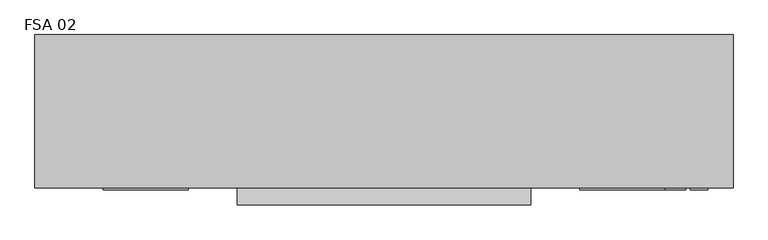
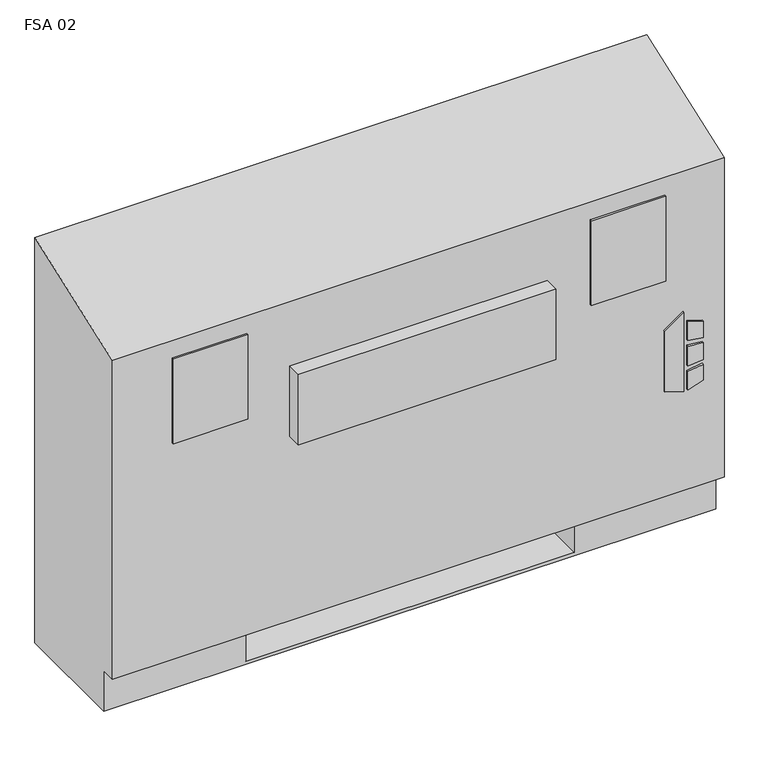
"""IFC4 building model written with IfcOpenShell, lengths in millimetres: proxy geometry, Vertical_Fan_Coil_Unit_-_FSA_-_IEC_-_4-Pipe_FS-FR_RH_2022 : FSA 02."""

from ifc_helpers import new_model, si_unit, point, frame, frame_2d, origin, place, context, project, spatial, polyline, circle_curve, trimmed, segment, composite_curve, outline, extrude, source, transform, mapped, element, save
from ifc_brep_helpers import plane_surface, revolved_surface, advanced_brep


def fsa_02_a3f02086(model_context):
    return source(origin(), model_context, "Body", "SolidModel", [
        extrude(outline(polyline([(263.9480703, 569.9868862), (254.0, 602.1602728), (396.1709244, 602.1602728), (373.1489183, 569.9868862), (263.9480703, 569.9868862)])), frame((0.0, 12.7, 0.0), z_axis=(0.0, 1.0, 0.0), x_axis=(0.0, 0.0, 1.0)), (0.0, 0.0, 1.0), 3.175),
        extrude(outline(polyline([(342.9473557, 608.9186058), (339.7449632, 635.0), (368.9738042, 635.0), (377.0382193, 608.9186058), (342.9473557, 608.9186058)])), frame((0.0, 12.7, 0.0), z_axis=(0.0, 1.0, 0.0), x_axis=(0.0, 0.0, 1.0)), (0.0, 0.0, 1.0), 3.175),
        extrude(outline(polyline([(291.0838288, 635.0), (287.4183279, 608.9186058), (254.0, 608.9186058), (262.6342372, 635.0), (291.0838288, 635.0)])), frame((0.0, 12.7, 0.0), z_axis=(0.0, 1.0, 0.0), x_axis=(0.0, 0.0, 1.0)), (0.0, 0.0, 1.0), 3.175),
        extrude(outline(polyline([(330.3989903, 635.0), (332.6808166, 608.9186058), (296.7432681, 608.9186058), (299.4845331, 635.0), (330.3989903, 635.0)])), frame((0.0, 12.7, 0.0), z_axis=(0.0, 1.0, 0.0), x_axis=(0.0, 0.0, 1.0)), (0.0, 0.0, 1.0), 3.175),
        extrude(outline(polyline([(-247.65, 81.534), (-247.65, 223.266), (-127.0, 223.266), (-127.0, 81.534), (-247.65, 81.534)])), frame((0.0, 0.0, 327.025), z_axis=(0.0, 0.0, 1.0), x_axis=(1.0, 0.0, 0.0)), (0.0, 0.0, 1.0), 260.35),
        extrude(outline(polyline([(-139.7, 12.7), (-266.7, 12.7), (-266.7, 15.875), (-139.7, 15.875), (-139.7, 12.7)])), frame((0.0, 0.0, 463.55), z_axis=(0.0, 0.0, 1.0), x_axis=(1.0, 0.0, 0.0)), (0.0, 0.0, 1.0), 152.4),
        extrude(outline(polyline([(571.5, 12.7), (444.5, 12.7), (444.5, 15.875), (571.5, 15.875), (571.5, 12.7)])), frame((0.0, 0.0, 463.55), z_axis=(0.0, 0.0, 1.0), x_axis=(1.0, 0.0, 0.0)), (0.0, 0.0, 1.0), 152.4),
        extrude(outline(composite_curve([segment(trimmed(circle_curve(frame_2d((495.3, 130.175)), 9.525), [point((485.775, 130.175))], [point((504.825, 130.175))], False, "CARTESIAN"), True, "CONTINUOUS"), segment(trimmed(circle_curve(frame_2d((495.3, 130.175)), 9.525), [point((504.825, 130.175))], [point((485.775, 130.175))], False, "CARTESIAN"), True, "CONTINUOUS")], self_intersect=False)), frame((0.0, 0.0, 101.6), z_axis=(0.0, 0.0, 1.0), x_axis=(1.0, 0.0, 0.0)), (0.0, 0.0, 1.0), 25.4),
        extrude(outline(polyline([(596.9, 196.85), (596.9, 63.5), (431.8, 63.5), (431.8, 196.85), (596.9, 196.85)])), frame((0.0, 0.0, 127.0), z_axis=(0.0, 0.0, 1.0), x_axis=(1.0, 0.0, 0.0)), (0.0, 0.0, 1.0), 50.8),
        extrude(outline(polyline([(371.475, -9.525), (-66.675, -9.525), (-66.675, 15.875), (371.475, 15.875), (371.475, -9.525)])), frame((0.0, 0.0, 405.1759245), z_axis=(0.0, 0.0, 1.0), x_axis=(1.0, 0.0, 0.0)), (0.0, 0.0, 1.0), 127.0),
        extrude(outline(composite_curve([segment(trimmed(circle_curve(frame_2d((117.475, 472.44)), 7.9375), [point((117.475, 480.3775))], [point((117.475, 464.5025))], False, "CARTESIAN"), True, "CONTINUOUS"), segment(trimmed(circle_curve(frame_2d((117.475, 472.44)), 7.9375), [point((117.475, 464.5025))], [point((117.475, 480.3775))], False, "CARTESIAN"), True, "CONTINUOUS")], self_intersect=False)), frame((431.8, 0.0, 0.0), z_axis=(1.0, 0.0, 0.0), x_axis=(0.0, 1.0, 0.0)), (0.0, 0.0, 1.0), 50.8),
        extrude(outline(composite_curve([segment(trimmed(circle_curve(frame_2d((164.0586, 445.897)), 7.9375), [point((164.0586, 453.8345))], [point((164.0586, 437.9595))], False, "CARTESIAN"), True, "CONTINUOUS"), segment(trimmed(circle_curve(frame_2d((164.0586, 445.897)), 7.9375), [point((164.0586, 437.9595))], [point((164.0586, 453.8345))], False, "CARTESIAN"), True, "CONTINUOUS")], self_intersect=False)), frame((431.8, 0.0, 0.0), z_axis=(1.0, 0.0, 0.0), x_axis=(0.0, 1.0, 0.0)), (0.0, 0.0, 1.0), 50.8),
        extrude(outline(composite_curve([segment(trimmed(circle_curve(frame_2d((53.975, 416.56)), 7.9502), [point((53.975, 424.5102))], [point((53.975, 408.6098))], False, "CARTESIAN"), True, "CONTINUOUS"), segment(trimmed(circle_curve(frame_2d((53.975, 416.56)), 7.9502), [point((53.975, 408.6098))], [point((53.975, 424.5102))], False, "CARTESIAN"), True, "CONTINUOUS")], self_intersect=False)), frame((431.8, 0.0, 0.0), z_axis=(1.0, 0.0, 0.0), x_axis=(0.0, 1.0, 0.0)), (0.0, 0.0, 1.0), 50.8),
        extrude(outline(composite_curve([segment(trimmed(circle_curve(frame_2d((130.175, 554.99)), 7.9502), [point((130.175, 562.9402))], [point((130.175, 547.0398))], False, "CARTESIAN"), True, "CONTINUOUS"), segment(trimmed(circle_curve(frame_2d((130.175, 554.99)), 7.9502), [point((130.175, 547.0398))], [point((130.175, 562.9402))], False, "CARTESIAN"), True, "CONTINUOUS")], self_intersect=False)), frame((431.8, 0.0, 0.0), z_axis=(1.0, 0.0, 0.0), x_axis=(0.0, 1.0, 0.0)), (0.0, 0.0, 1.0), 50.8),
        advanced_brep(
        [(-368.3, 244.475, 0.0), (673.1, 244.475, 0.0), (673.1, 41.275, 0.0), (-368.3, 41.275, 0.0), (-368.3, 244.475, 730.25), (673.1, 244.475, 730.25), (431.8, 244.475, 73.025), (660.4, 244.475, 73.025), (660.4, 244.475, 654.05), (431.8, 244.475, 654.05), (431.8, 244.475, 414.8650565), (460.375, 244.475, 414.8650565), (460.375, 244.475, 385.2349435), (431.8, 244.475, 385.2349435), (431.8, 244.475, 287.3375), (460.375, 244.475, 287.3375), (460.375, 244.475, 258.7625), (431.8, 244.475, 258.7625), (431.8, 244.475, 141.2875), (460.375, 244.475, 141.2875), (460.375, 244.475, 112.7125), (431.8, 244.475, 112.7125), (-127.0, 244.475, 654.05), (-355.6, 244.475, 654.05), (-355.6, 244.475, 73.025), (-127.0, 244.475, 73.025), (-127.0, 244.475, 112.7125), (-155.575, 244.475, 112.7125), (-155.575, 244.475, 141.2875), (-127.0, 244.475, 141.2875), (-127.0, 244.475, 258.7625), (-155.575, 244.475, 258.7625), (-155.575, 244.475, 287.3375), (-127.0, 244.475, 287.3375), (-127.0, 244.475, 385.2349435), (-155.575, 244.475, 385.2349435), (-155.575, 244.475, 414.8650565), (-127.0, 244.475, 414.8650565), (450.0626, 244.475, 127.0), (438.9374, 244.475, 127.0), (450.0626, 244.475, 400.05), (438.9374, 244.475, 400.05), (450.0626, 244.475, 273.05), (438.9374, 244.475, 273.05), (-134.1374, 244.475, 127.0), (-145.2626, 244.475, 127.0), (-134.1374, 244.475, 273.05), (-145.2626, 244.475, 273.05), (-134.1374, 244.475, 400.05), (-145.2626, 244.475, 400.05), (-368.3, 41.275, 73.025), (-368.3, 15.875, 73.025), (-368.3, 15.875, 647.7), (673.1, 15.875, 73.025), (673.1, 15.875, 647.7), (673.1, 41.275, 73.025), (-127.0, 41.275, 73.025), (-127.0, 225.425, 73.025), (431.8, 225.425, 73.025), (431.8, 41.275, 73.025), (431.8, 41.275, 6.35), (-127.0, 41.275, 6.35), (431.8, 41.275, 654.05), (660.4, 41.275, 654.05), (660.4, 41.275, 73.025), (431.8, 41.275, 73.025), (-127.0, 41.275, 654.05), (-127.0, 41.275, 73.025), (-355.6, 41.275, 73.025), (-355.6, 41.275, 654.05), (431.8, 225.425, 73.025), (431.8, 238.125, 112.7125), (431.8, 238.125, 141.2875), (431.8, 238.125, 258.7625), (431.8, 238.125, 287.3375), (431.8, 238.125, 385.2349435), (431.8, 238.125, 414.8650565), (-127.0, 225.425, 73.025), (-127.0, 238.125, 414.8650565), (-127.0, 238.125, 385.2349435), (-127.0, 238.125, 287.3375), (-127.0, 238.125, 258.7625), (-127.0, 238.125, 141.2875), (-127.0, 238.125, 112.7125), (-127.0, 225.425, 6.35), (431.8, 225.425, 6.35), (460.375, 238.125, 112.7125), (460.375, 238.125, 141.2875), (438.9374, 238.125, 127.0), (450.0626, 238.125, 127.0), (460.375, 238.125, 258.7625), (460.375, 238.125, 287.3375), (438.9374, 238.125, 273.05), (450.0626, 238.125, 273.05), (460.375, 238.125, 385.2349435), (460.375, 238.125, 414.8650565), (438.9374, 238.125, 400.05), (450.0626, 238.125, 400.05), (-155.575, 238.125, 141.2875), (-155.575, 238.125, 112.7125), (-145.2626, 238.125, 127.0), (-134.1374, 238.125, 127.0), (-155.575, 238.125, 287.3375), (-155.575, 238.125, 258.7625), (-145.2626, 238.125, 273.05), (-134.1374, 238.125, 273.05), (-155.575, 238.125, 414.8650565), (-155.575, 238.125, 385.2349435), (-145.2626, 238.125, 400.05), (-134.1374, 238.125, 400.05)],
        [
            (0, 1),
            (1, 2),
            (2, 3),
            (3, 0),
            (0, 4),
            (4, 5),
            (5, 1),
            (6, 7),
            (7, 8),
            (8, 9),
            (9, 10),
            (10, 11),
            (11, 12),
            (12, 13),
            (13, 14),
            (14, 15),
            (15, 16),
            (16, 17),
            (17, 18),
            (18, 19),
            (19, 20),
            (20, 21),
            (21, 6),
            (22, 23),
            (23, 24),
            (24, 25),
            (25, 26),
            (26, 27),
            (27, 28),
            (28, 29),
            (29, 30),
            (30, 31),
            (31, 32),
            (32, 33),
            (33, 34),
            (34, 35),
            (35, 36),
            (36, 37),
            (37, 22),
            (38, 39, circle_curve(frame((444.5, 244.475, 127.0), z_axis=(0.0, -1.0, 0.0), x_axis=(-1.0, 0.0, 0.0)), 5.5626)),
            (39, 38, circle_curve(frame((444.5, 244.475, 127.0), z_axis=(0.0, -1.0, 0.0), x_axis=(-1.0, 0.0, 0.0)), 5.5626)),
            (40, 41, circle_curve(frame((444.5, 244.475, 400.05), z_axis=(0.0, -1.0, 0.0), x_axis=(-1.0, 0.0, 0.0)), 5.5626)),
            (41, 40, circle_curve(frame((444.5, 244.475, 400.05), z_axis=(0.0, -1.0, 0.0), x_axis=(-1.0, 0.0, 0.0)), 5.5626)),
            (42, 43, circle_curve(frame((444.5, 244.475, 273.05), z_axis=(0.0, -1.0, 0.0), x_axis=(-1.0, 0.0, 0.0)), 5.5626)),
            (43, 42, circle_curve(frame((444.5, 244.475, 273.05), z_axis=(0.0, -1.0, 0.0), x_axis=(-1.0, 0.0, 0.0)), 5.5626)),
            (44, 45, circle_curve(frame((-139.7, 244.475, 127.0), z_axis=(0.0, -1.0, 0.0), x_axis=(-1.0, 0.0, 0.0)), 5.5626)),
            (45, 44, circle_curve(frame((-139.7, 244.475, 127.0), z_axis=(0.0, -1.0, 0.0), x_axis=(-1.0, 0.0, 0.0)), 5.5626)),
            (46, 47, circle_curve(frame((-139.7, 244.475, 273.05), z_axis=(0.0, -1.0, 0.0), x_axis=(-1.0, 0.0, 0.0)), 5.5626)),
            (47, 46, circle_curve(frame((-139.7, 244.475, 273.05), z_axis=(0.0, -1.0, 0.0), x_axis=(-1.0, 0.0, 0.0)), 5.5626)),
            (48, 49, circle_curve(frame((-139.7, 244.475, 400.05), z_axis=(0.0, -1.0, 0.0), x_axis=(-1.0, 0.0, 0.0)), 5.5626)),
            (49, 48, circle_curve(frame((-139.7, 244.475, 400.05), z_axis=(0.0, -1.0, 0.0), x_axis=(-1.0, 0.0, 0.0)), 5.5626)),
            (3, 50),
            (50, 51),
            (51, 52),
            (52, 4),
            (51, 53),
            (53, 54),
            (54, 52),
            (5, 54),
            (53, 55),
            (55, 2),
            (50, 56),
            (56, 57),
            (57, 58),
            (58, 59),
            (59, 55),
            (59, 60),
            (60, 61),
            (61, 56),
            (62, 63),
            (63, 64),
            (64, 65),
            (65, 62),
            (66, 67),
            (67, 68),
            (68, 69),
            (69, 66),
            (65, 70),
            (70, 6),
            (21, 71),
            (71, 72),
            (72, 18),
            (17, 73),
            (73, 74),
            (74, 14),
            (13, 75),
            (75, 76),
            (76, 10),
            (9, 62),
            (64, 7),
            (63, 8),
            (69, 23),
            (22, 66),
            (68, 24),
            (67, 77),
            (77, 25),
            (37, 78),
            (78, 79),
            (79, 34),
            (33, 80),
            (80, 81),
            (81, 30),
            (29, 82),
            (82, 83),
            (83, 26),
            (57, 84),
            (84, 85),
            (85, 58),
            (85, 60),
            (84, 61),
            (71, 86),
            (86, 87),
            (87, 72),
            (88, 89, circle_curve(frame((444.5, 238.125, 127.0), z_axis=(0.0, 1.0, 0.0), x_axis=(-1.0, 0.0, 0.0)), 5.5626)),
            (89, 88, circle_curve(frame((444.5, 238.125, 127.0), z_axis=(0.0, 1.0, 0.0), x_axis=(-1.0, 0.0, 0.0)), 5.5626)),
            (73, 90),
            (90, 91),
            (91, 74),
            (92, 93, circle_curve(frame((444.5, 238.125, 273.05), z_axis=(0.0, 1.0, 0.0), x_axis=(-1.0, 0.0, 0.0)), 5.5626)),
            (93, 92, circle_curve(frame((444.5, 238.125, 273.05), z_axis=(0.0, 1.0, 0.0), x_axis=(-1.0, 0.0, 0.0)), 5.5626)),
            (75, 94),
            (94, 95),
            (95, 76),
            (96, 97, circle_curve(frame((444.5, 238.125, 400.05), z_axis=(0.0, 1.0, 0.0), x_axis=(-1.0, 0.0, 0.0)), 5.5626)),
            (97, 96, circle_curve(frame((444.5, 238.125, 400.05), z_axis=(0.0, 1.0, 0.0), x_axis=(-1.0, 0.0, 0.0)), 5.5626)),
            (98, 99),
            (99, 83),
            (82, 98),
            (100, 101, circle_curve(frame((-139.7, 238.125, 127.0), z_axis=(0.0, 1.0, 0.0), x_axis=(-1.0, 0.0, 0.0)), 5.5626)),
            (101, 100, circle_curve(frame((-139.7, 238.125, 127.0), z_axis=(0.0, 1.0, 0.0), x_axis=(-1.0, 0.0, 0.0)), 5.5626)),
            (102, 103),
            (103, 81),
            (80, 102),
            (104, 105, circle_curve(frame((-139.7, 238.125, 273.05), z_axis=(0.0, 1.0, 0.0), x_axis=(-1.0, 0.0, 0.0)), 5.5626)),
            (105, 104, circle_curve(frame((-139.7, 238.125, 273.05), z_axis=(0.0, 1.0, 0.0), x_axis=(-1.0, 0.0, 0.0)), 5.5626)),
            (106, 107),
            (107, 79),
            (78, 106),
            (108, 109, circle_curve(frame((-139.7, 238.125, 400.05), z_axis=(0.0, 1.0, 0.0), x_axis=(-1.0, 0.0, 0.0)), 5.5626)),
            (109, 108, circle_curve(frame((-139.7, 238.125, 400.05), z_axis=(0.0, 1.0, 0.0), x_axis=(-1.0, 0.0, 0.0)), 5.5626)),
            (87, 19),
            (86, 20),
            (91, 15),
            (90, 16),
            (95, 11),
            (94, 12),
            (28, 98),
            (99, 27),
            (32, 102),
            (103, 31),
            (36, 106),
            (107, 35),
            (88, 39),
            (38, 89),
            (96, 41),
            (40, 97),
            (92, 43),
            (42, 93),
            (100, 45),
            (44, 101),
            (104, 47),
            (46, 105),
            (108, 49),
            (48, 109),
        ],
        [
            plane_surface(frame((-368.3, 244.475, 0.0), z_axis=(0.0, 0.0, -1.0), x_axis=(1.0, 0.0, 0.0))),
            plane_surface(frame((673.1, 244.475, 730.25), z_axis=(0.0, 1.0, 0.0), x_axis=(0.0, 0.0, -1.0))),
            plane_surface(frame((-368.3, 244.475, 730.25), z_axis=(-1.0, 0.0, 0.0), x_axis=(0.0, 0.0, -1.0))),
            plane_surface(frame((-368.3, 15.875, 730.25), z_axis=(0.0, -1.0, 0.0), x_axis=(0.0, 0.0, -1.0))),
            plane_surface(frame((673.1, 15.875, 730.25), z_axis=(1.0, 0.0, 0.0), x_axis=(0.0, 0.0, -1.0))),
            plane_surface(frame((-368.3, 15.875, 73.025), z_axis=(0.0, 0.0, -1.0), x_axis=(1.0, 0.0, 0.0))),
            plane_surface(frame((-368.3, 41.275, 73.025), z_axis=(0.0, -1.0, 0.0), x_axis=(1.0, 0.0, 0.0))),
            plane_surface(frame((431.8, 41.275, 654.05), z_axis=(0.0, 1.0, 0.0), x_axis=(0.0, 0.0, -1.0))),
            plane_surface(frame((431.8, 41.275, 654.05), z_axis=(1.0, 0.0, 0.0), x_axis=(0.0, 1.0, 0.0))),
            plane_surface(frame((431.8, 41.275, 73.025), z_axis=(0.0, 0.0, 1.0), x_axis=(0.0, 1.0, 0.0))),
            plane_surface(frame((660.4, 41.275, 73.025), z_axis=(-1.0, 0.0, 0.0), x_axis=(0.0, 1.0, 0.0))),
            plane_surface(frame((660.4, 41.275, 654.05), z_axis=(0.0, 0.0, -1.0), x_axis=(0.0, 1.0, 0.0))),
            plane_surface(frame((-127.0, 41.275, 654.05), z_axis=(0.0, 0.0, -1.0), x_axis=(0.0, 1.0, 0.0))),
            plane_surface(frame((-355.6, 41.275, 654.05), z_axis=(1.0, 0.0, 0.0), x_axis=(0.0, 1.0, 0.0))),
            plane_surface(frame((-355.6, 41.275, 73.025), z_axis=(0.0, 0.0, 1.0), x_axis=(0.0, 1.0, 0.0))),
            plane_surface(frame((-127.0, 41.275, 73.025), z_axis=(-1.0, 0.0, 0.0), x_axis=(0.0, 1.0, 0.0))),
            plane_surface(frame((431.8, 225.425, 73.025), z_axis=(0.0, -1.0, 0.0), x_axis=(0.0, 0.0, -1.0))),
            plane_surface(frame((431.8, 225.425, 73.025), z_axis=(-1.0, 0.0, 0.0), x_axis=(0.0, -1.0, 0.0))),
            plane_surface(frame((431.8, 225.425, 6.35), z_axis=(0.0, 0.0, 1.0), x_axis=(0.0, -1.0, 0.0))),
            plane_surface(frame((-127.0, 225.425, 6.35), z_axis=(1.0, 0.0, 0.0), x_axis=(0.0, -1.0, 0.0))),
            plane_surface(frame((460.375, 238.125, 141.2875), z_axis=(0.0, -1.0, 0.0), x_axis=(-1.0, 0.0, 0.0))),
            plane_surface(frame((431.8, 244.475, 141.2875), z_axis=(0.0, 0.0, 1.0), x_axis=(0.0, -1.0, 0.0))),
            plane_surface(frame((460.375, 244.475, 141.2875), z_axis=(1.0, 0.0, 0.0), x_axis=(0.0, -1.0, 0.0))),
            plane_surface(frame((460.375, 244.475, 112.7125), z_axis=(0.0, 0.0, -1.0), x_axis=(0.0, -1.0, 0.0))),
            plane_surface(frame((431.8, 244.475, 287.3375), z_axis=(0.0, 0.0, 1.0), x_axis=(0.0, -1.0, 0.0))),
            plane_surface(frame((460.375, 244.475, 287.3375), z_axis=(1.0, 0.0, 0.0), x_axis=(0.0, -1.0, 0.0))),
            plane_surface(frame((460.375, 244.475, 258.7625), z_axis=(0.0, 0.0, -1.0), x_axis=(0.0, -1.0, 0.0))),
            plane_surface(frame((431.8, 244.475, 414.8650565), z_axis=(0.0, 0.0, 1.0), x_axis=(0.0, -1.0, 0.0))),
            plane_surface(frame((460.375, 244.475, 414.8650565), z_axis=(1.0, 0.0, 0.0), x_axis=(0.0, -1.0, 0.0))),
            plane_surface(frame((460.375, 244.475, 385.2349435), z_axis=(0.0, 0.0, -1.0), x_axis=(0.0, -1.0, 0.0))),
            plane_surface(frame((-155.575, 244.475, 141.2875), z_axis=(0.0, 0.0, 1.0), x_axis=(0.0, -1.0, 0.0))),
            plane_surface(frame((-127.0, 244.475, 112.7125), z_axis=(0.0, 0.0, -1.0), x_axis=(0.0, -1.0, 0.0))),
            plane_surface(frame((-155.575, 244.475, 112.7125), z_axis=(-1.0, 0.0, 0.0), x_axis=(0.0, -1.0, 0.0))),
            plane_surface(frame((-155.575, 244.475, 287.3375), z_axis=(0.0, 0.0, 1.0), x_axis=(0.0, -1.0, 0.0))),
            plane_surface(frame((-127.0, 244.475, 258.7625), z_axis=(0.0, 0.0, -1.0), x_axis=(0.0, -1.0, 0.0))),
            plane_surface(frame((-155.575, 244.475, 258.7625), z_axis=(-1.0, 0.0, 0.0), x_axis=(0.0, -1.0, 0.0))),
            plane_surface(frame((-155.575, 244.475, 414.8650565), z_axis=(0.0, 0.0, 1.0), x_axis=(0.0, -1.0, 0.0))),
            plane_surface(frame((-127.0, 244.475, 385.2349435), z_axis=(0.0, 0.0, -1.0), x_axis=(0.0, -1.0, 0.0))),
            plane_surface(frame((-155.575, 244.475, 385.2349435), z_axis=(-1.0, 0.0, 0.0), x_axis=(0.0, -1.0, 0.0))),
            revolved_surface(polyline([(438.9374, 238.125, 127.0), (438.9374, 244.475, 127.0)]), (444.5, 244.475, 127.0), (0.0, -1.0, 0.0)),
            revolved_surface(polyline([(438.9374, 238.125, 400.05), (438.9374, 244.475, 400.05)]), (444.5, 244.475, 400.05), (0.0, -1.0, 0.0)),
            revolved_surface(polyline([(438.9374, 238.125, 273.05), (438.9374, 244.475, 273.05)]), (444.5, 244.475, 273.05), (0.0, -1.0, 0.0)),
            revolved_surface(polyline([(-145.2626, 238.125, 127.0), (-145.2626, 244.475, 127.0)]), (-139.7, 244.475, 127.0), (0.0, -1.0, 0.0)),
            revolved_surface(polyline([(-145.2626, 238.125, 273.05), (-145.2626, 244.475, 273.05)]), (-139.7, 244.475, 273.05), (0.0, -1.0, 0.0)),
            revolved_surface(polyline([(-145.2626, 238.125, 400.05), (-145.2626, 244.475, 400.05)]), (-139.7, 244.475, 400.05), (0.0, -1.0, 0.0)),
            plane_surface(frame((-368.3, 244.475, 730.25), z_axis=(0.0, -0.33964446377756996, 0.9405538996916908), x_axis=(1.0, 0.0, 0.0))),
        ],
        [
            (0, [[1, 2, 3, 4]]),
            (1, [[-1, 5, 6, 7], [8, 9, 10, 11, 12, 13, 14, 15, 16, 17, 18, 19, 20, 21, 22, 23], [24, 25, 26, 27, 28, 29, 30, 31, 32, 33, 34, 35, 36, 37, 38, 39], [40, 41], [42, 43], [44, 45], [46, 47], [48, 49], [50, 51]]),
            (2, [[-5, -4, 52, 53, 54, 55]]),
            (3, [[56, 57, 58, -54]]),
            (4, [[-7, 59, -57, 60, 61, -2]]),
            (5, [[-53, 62, 63, 64, 65, 66, -60, -56]]),
            (6, [[-3, -61, -66, 67, 68, 69, -62, -52]]),
            (7, [[70, 71, 72, 73]]),
            (7, [[74, 75, 76, 77]]),
            (8, [[-73, 78, 79, -23, 80, 81, 82, -19, 83, 84, 85, -15, 86, 87, 88, -11, 89]]),
            (9, [[-72, 90, -8, -79, -78]]),
            (10, [[-71, 91, -9, -90]]),
            (11, [[-70, -89, -10, -91]]),
            (12, [[-77, 92, -24, 93]]),
            (13, [[-76, 94, -25, -92]]),
            (14, [[-75, 95, 96, -26, -94]]),
            (15, [[-74, -93, -39, 97, 98, 99, -35, 100, 101, 102, -31, 103, 104, 105, -27, -96, -95]]),
            (16, [[-64, 106, 107, 108]]),
            (17, [[-108, 109, -67, -65]]),
            (18, [[-107, 110, -68, -109]]),
            (19, [[-106, -63, -69, -110]]),
            (20, [[111, 112, 113, -81], [114, 115]]),
            (20, [[116, 117, 118, -84], [119, 120]]),
            (20, [[121, 122, 123, -87], [124, 125]]),
            (20, [[126, 127, -104, 128], [129, 130]]),
            (20, [[131, 132, -101, 133], [134, 135]]),
            (20, [[136, 137, -98, 138], [139, 140]]),
            (21, [[-113, 141, -20, -82]]),
            (22, [[-112, 142, -21, -141]]),
            (23, [[-111, -80, -22, -142]]),
            (24, [[-118, 143, -16, -85]]),
            (25, [[-117, 144, -17, -143]]),
            (26, [[-116, -83, -18, -144]]),
            (27, [[-123, 145, -12, -88]]),
            (28, [[-122, 146, -13, -145]]),
            (29, [[-121, -86, -14, -146]]),
            (30, [[-128, -103, -30, 147]]),
            (31, [[-127, 148, -28, -105]]),
            (32, [[-126, -147, -29, -148]]),
            (33, [[-133, -100, -34, 149]]),
            (34, [[-132, 150, -32, -102]]),
            (35, [[-131, -149, -33, -150]]),
            (36, [[-138, -97, -38, 151]]),
            (37, [[-137, 152, -36, -99]]),
            (38, [[-136, -151, -37, -152]]),
            (39, [[153, -40, 154, -114]]),
            (39, [[-153, -115, -154, -41]]),
            (40, [[155, -42, 156, -124]]),
            (40, [[-155, -125, -156, -43]]),
            (41, [[157, -44, 158, -119]]),
            (41, [[-157, -120, -158, -45]]),
            (42, [[159, -46, 160, -129]]),
            (42, [[-159, -130, -160, -47]]),
            (43, [[161, -48, 162, -134]]),
            (43, [[-161, -135, -162, -49]]),
            (44, [[163, -50, 164, -139]]),
            (44, [[-163, -140, -164, -51]]),
            (45, [[-6, -55, -58, -59]]),
        ],
    ),
    ])


if __name__ == "__main__":
    model = new_model("IFC4")
    model_context = context("Model", 3, world=origin())
    ifc_project = project(units=[si_unit("LENGTHUNIT", "METRE", prefix="MILLI")], contexts=[model_context])
    site = spatial("IfcSite", under=ifc_project)
    building = spatial("IfcBuilding", under=site)
    placement = place(None, origin())
    fsa_02_shape = fsa_02_a3f02086(model_context)
    element("IfcBuildingElementProxy", 1, Name="Vertical_Fan_Coil_Unit_-_FSA_-_IEC_-_4-Pipe_FS-FR_RH_2022 : FSA 02", ObjectType="Vertical_Fan_Coil_Unit_-_FSA_-_IEC_-_4-Pipe_FS-FR_RH_2022 : FSA 02", at=placement, inside=building, context=model_context, shape_type="MappedRepresentation", body=[
        mapped(fsa_02_shape, transform((0.0, 0.0, 0.0), x_axis=(1.0, 0.0, 0.0), y_axis=(0.0, 1.0, 0.0), z_axis=(0.0, 0.0, 1.0))),
    ])
    save(model, "model.ifc")
